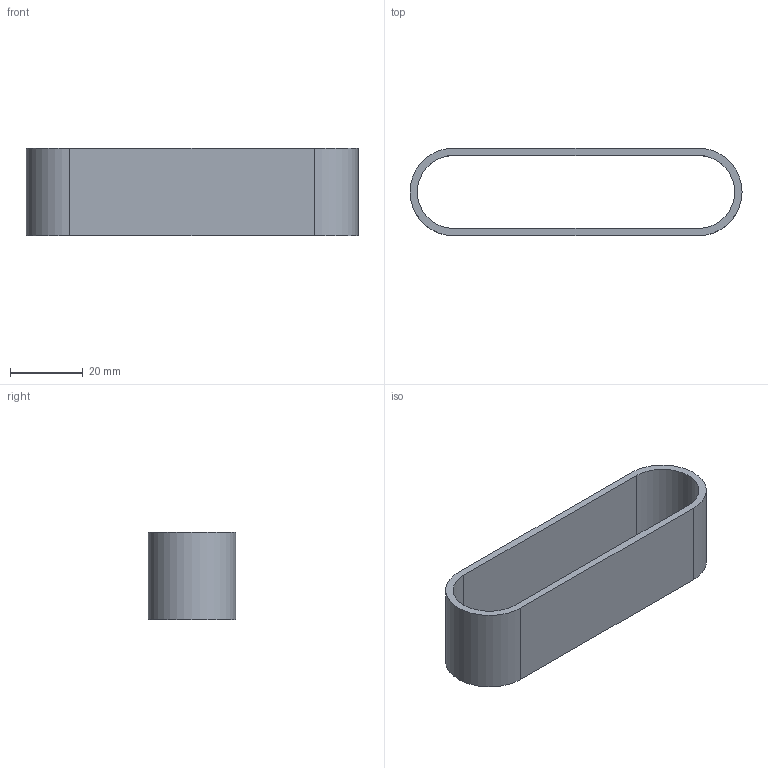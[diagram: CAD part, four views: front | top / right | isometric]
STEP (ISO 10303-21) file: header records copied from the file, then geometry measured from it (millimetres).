
FILE_DESCRIPTION(('Open CASCADE Model'),'2;1');
FILE_NAME('Open CASCADE Shape Model','2026-10-25T05:18:02',('Author'),( 'Open CASCADE'),'Open CASCADE STEP processor 7.9','Open CASCADE 7.9' ,'Unknown');
FILE_SCHEMA(('AUTOMOTIVE_DESIGN { 1 0 10303 214 1 1 1 1 }'));
Length unit declared in the file: millimetre
Products named in the file (1): Open CASCADE STEP translator 7.9 82
Bounding box: 91 x 24 x 24 mm (x, y, z)
Volume: 9749.5 mm3; surface area: 10562 mm2
Topology: 1 solids, 1 shells, 10 faces, 24 edges, 16 vertices
Faces by surface type: plane 6, cylinder 4
Entity records: 622 total; most frequent: DIRECTION 102, CARTESIAN_POINT 99, LINE 56, VECTOR 56, ORIENTED_EDGE 48, PCURVE 48, DEFINITIONAL_REPRESENTATION 48, EDGE_CURVE 24
